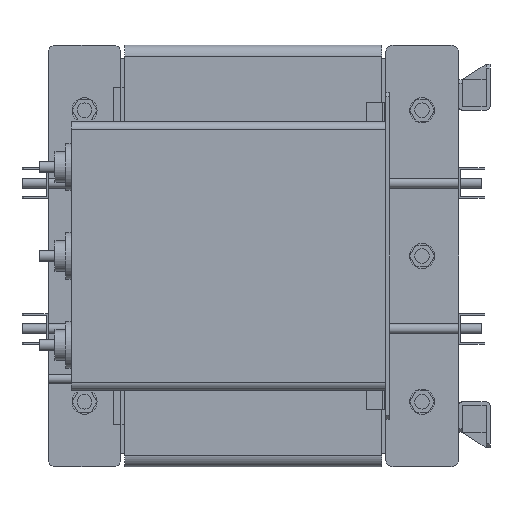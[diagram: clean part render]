
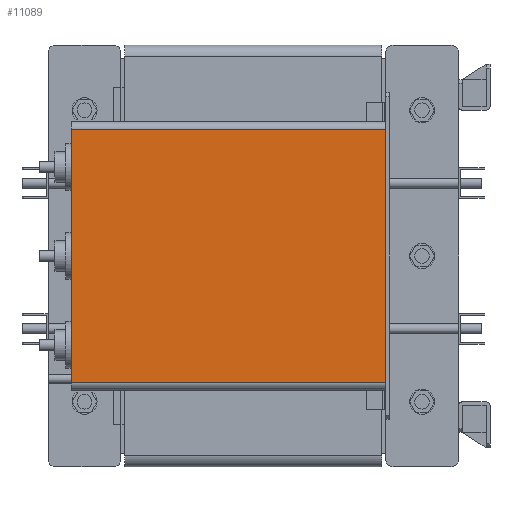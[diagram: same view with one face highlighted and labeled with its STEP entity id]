
A CAD part, left-side view. The second image highlights one B-rep face of the part: STEP entity #11089.
In plain terms, the highlighted planar face has unit normal (-1, 0, 0).
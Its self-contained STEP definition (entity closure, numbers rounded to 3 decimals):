
#1293=FACE_OUTER_BOUND('',#2019,.T.);
#2019=EDGE_LOOP('',(#9317,#9318,#9319,#9320));
#3056=LINE('',#17878,#4188);
#3128=LINE('',#18072,#4260);
#3129=LINE('',#18075,#4261);
#3130=LINE('',#18076,#4262);
#4188=VECTOR('',#14711,10.);
#4260=VECTOR('',#14893,10.);
#4261=VECTOR('',#14896,10.);
#4262=VECTOR('',#14897,10.);
#5182=VERTEX_POINT('',#17875);
#5183=VERTEX_POINT('',#17877);
#5250=VERTEX_POINT('',#18070);
#5251=VERTEX_POINT('',#18074);
#6565=EDGE_CURVE('',#5182,#5183,#3056,.T.);
#6663=EDGE_CURVE('',#5182,#5250,#3128,.T.);
#6664=EDGE_CURVE('',#5251,#5250,#3129,.T.);
#6665=EDGE_CURVE('',#5183,#5251,#3130,.T.);
#9317=ORIENTED_EDGE('',*,*,#6565,.F.);
#9318=ORIENTED_EDGE('',*,*,#6663,.T.);
#9319=ORIENTED_EDGE('',*,*,#6664,.F.);
#9320=ORIENTED_EDGE('',*,*,#6665,.F.);
#10473=PLANE('',#12109);
#11089=ADVANCED_FACE('',(#1293),#10473,.T.);
#12109=AXIS2_PLACEMENT_3D('',#18073,#14894,#14895);
#14711=DIRECTION('',(0.,0.,-1.));
#14893=DIRECTION('',(0.,1.,0.));
#14894=DIRECTION('center_axis',(-1.,0.,0.));
#14895=DIRECTION('ref_axis',(0.,0.,
1.));
#14896=DIRECTION('',(0.,0.,1.));
#14897=DIRECTION('',(0.,1.,0.));
#17875=CARTESIAN_POINT('',(-555.,-5.,165.));
#17877=CARTESIAN_POINT('',(-555.,-5.,-165.));
#17878=CARTESIAN_POINT('',(-555.,-5.,50.));
#18070=CARTESIAN_POINT('',(-555.,405.,165.));
#18072=CARTESIAN_POINT('',(-555.,-5.,165.));
#18073=CARTESIAN_POINT('Origin',(-555.,-5.,-165.));
#18074=CARTESIAN_POINT('',(-555.,405.,-165.));
#18075=CARTESIAN_POINT('',(-555.,405.,-165.));
#18076=CARTESIAN_POINT('',(-555.,-5.,-165.));
